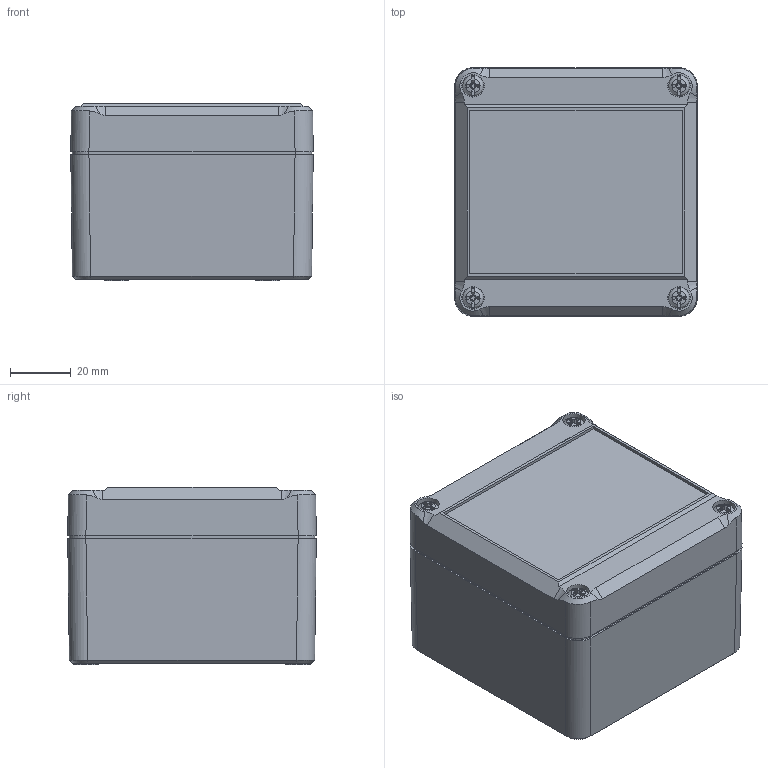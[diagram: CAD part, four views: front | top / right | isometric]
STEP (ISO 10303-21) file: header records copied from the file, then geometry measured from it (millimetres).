
FILE_DESCRIPTION((''),'2;1');
FILE_NAME('F:\User\Daten\Internet-3D-Daten\Euromas II\63210200_ET 210 F.stp','2009-09-02T07:43:48',('Kotzmaier'),(''),'Autodesk Inventor 2009','Autodesk Inventor 2009','');
FILE_SCHEMA(('AUTOMOTIVE_DESIGN { 1 0 10303 214 1 1 1 1 }'));
Length unit declared in the file: millimetre
Products named in the file (4): EM 210 F; 210 UT_1002737_3DSYM; 210&225 OT-F_1002992_3DSYM; SHR Z KAL40X25X10 WN 1412 MG_3DSYM
Assembly tree (6 placements, depth 2):
  EM 210 F
    210 UT_1002737_3DSYM
    210&225 OT-F_1002992_3DSYM
    SHR Z KAL40X25X10 WN 1412 MG_3DSYM  x4
Bounding box: 80 x 82 x 58.5 mm (x, y, z)
Volume: 40266 mm3; surface area: 70877.1 mm2
Topology: 5 solids, 6 shells, 785 faces, 1904 edges, 1165 vertices
Faces by surface type: plane 248, cylinder 215, bspline 144, cone 102, torus 76
Full cylindrical faces by diameter (mm): 2.4 x11, 2.9 x4, 3.2 x4, 4.2 x4, 4.5 x4, 7 x4, 7.4 x4, 8 x8
Entity records: 17241 total; most frequent: CARTESIAN_POINT 6270, DIRECTION 2371, ORIENTED_EDGE 2112, EDGE_CURVE 1056, AXIS2_PLACEMENT_3D 952, VERTEX_POINT 697, EDGE_LOOP 613, FACE_OUTER_BOUND 481
